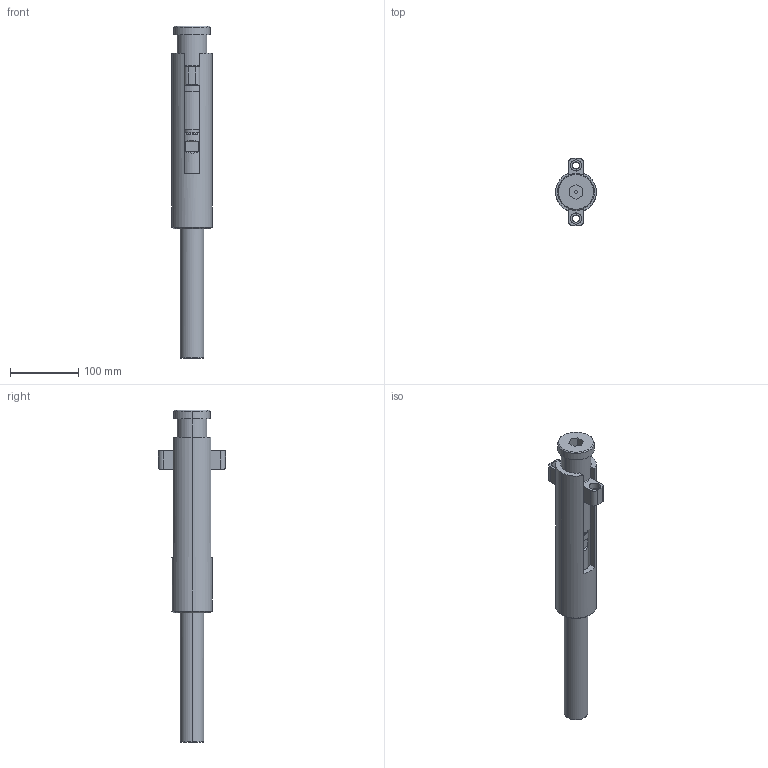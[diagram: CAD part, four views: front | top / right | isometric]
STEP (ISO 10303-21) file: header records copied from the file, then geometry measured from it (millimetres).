
FILE_DESCRIPTION (( 'STEP AP203' ), '1' );
FILE_NAME ('DKL6022.STEP', '2013-08-26T11:51:49', ( '' ), ( '' ), 'SwSTEP 2.0', 'SolidWorks 2013', '' );
FILE_SCHEMA (( 'CONFIG_CONTROL_DESIGN' ));
Length unit declared in the file: millimetre
Products named in the file (9): DKL6022; DKL6_31; DKL6_62; DKL6_51; DKL6_21; DKL6_41 short; DKL6_82; DKL6_72; DKL6_11
Assembly tree (11 placements, depth 2):
  DKL6022
    DKL6_31
    DKL6_62  x4
    DKL6_51
    DKL6_21
    DKL6_41 short
    DKL6_82
    DKL6_72
    DKL6_11
Bounding box: 60 x 98.94 x 488 mm (x, y, z)
Volume: 835171.5 mm3; surface area: 181728.3 mm2
Topology: 11 solids, 11 shells, 433 faces, 1035 edges, 636 vertices
Faces by surface type: plane 142, cylinder 136, cone 104, torus 49, bspline 2
Entity records: 15060 total; most frequent: CARTESIAN_POINT 5581, DIRECTION 1910, ORIENTED_EDGE 1686, EDGE_CURVE 843, AXIS2_PLACEMENT_3D 775, VERTEX_POINT 525, CIRCLE 408, EDGE_LOOP 400
